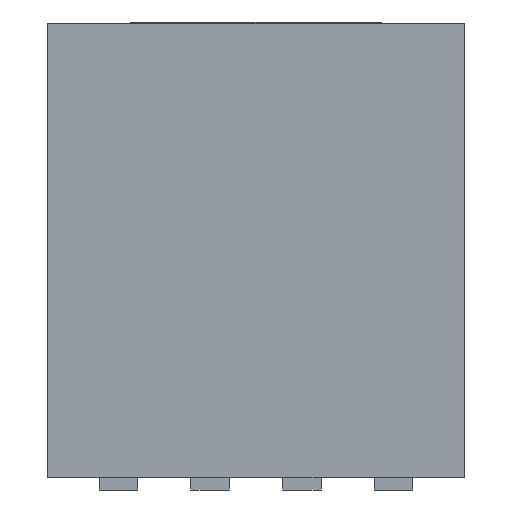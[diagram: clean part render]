
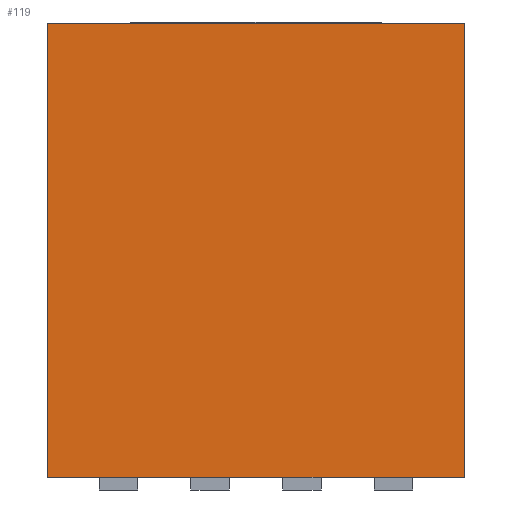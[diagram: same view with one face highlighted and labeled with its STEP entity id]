
A CAD part, left-side view. The second image highlights one B-rep face of the part: STEP entity #119.
In plain terms, the highlighted planar face has unit normal (-1, 0, 0).
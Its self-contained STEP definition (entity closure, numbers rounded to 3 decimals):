
#21 = EDGE_CURVE('',#22,#24,#26,.T.);
#22 = VERTEX_POINT('',#23);
#23 = CARTESIAN_POINT('',(-6.6,-4.55,0.3));
#24 = VERTEX_POINT('',#25);
#25 = CARTESIAN_POINT('',(-6.6,-4.55,10.2));
#26 = LINE('',#27,#28);
#27 = CARTESIAN_POINT('',(-6.6,-4.55,0.3));
#28 = VECTOR('',#29,1.);
#29 = DIRECTION('',(0.,0.,1.));
#94 = VERTEX_POINT('',#95);
#95 = CARTESIAN_POINT('',(-6.6,4.55,10.2));
#101 = EDGE_CURVE('',#102,#94,#104,.T.);
#102 = VERTEX_POINT('',#103);
#103 = CARTESIAN_POINT('',(-6.6,4.55,0.3));
#104 = LINE('',#105,#106);
#105 = CARTESIAN_POINT('',(-6.6,4.55,0.3));
#106 = VECTOR('',#107,1.);
#107 = DIRECTION('',(0.,0.,1.));
#119 = ADVANCED_FACE('',(#120),#136,.F.);
#120 = FACE_BOUND('',#121,.F.);
#121 = EDGE_LOOP('',(#122,#123,#129,#130));
#122 = ORIENTED_EDGE('',*,*,#101,.T.);
#123 = ORIENTED_EDGE('',*,*,#124,.T.);
#124 = EDGE_CURVE('',#94,#24,#125,.T.);
#125 = LINE('',#126,#127);
#126 = CARTESIAN_POINT('',(-6.6,4.55,10.2));
#127 = VECTOR('',#128,1.);
#128 = DIRECTION('',(0.,-1.,0.));
#129 = ORIENTED_EDGE('',*,*,#21,.F.);
#130 = ORIENTED_EDGE('',*,*,#131,.F.);
#131 = EDGE_CURVE('',#102,#22,#132,.T.);
#132 = LINE('',#133,#134);
#133 = CARTESIAN_POINT('',(-6.6,4.55,0.3));
#134 = VECTOR('',#135,1.);
#135 = DIRECTION('',(0.,-1.,0.));
#136 = PLANE('',#137);
#137 = AXIS2_PLACEMENT_3D('',#138,#139,#140);
#138 = CARTESIAN_POINT('',(-6.6,4.55,0.3));
#139 = DIRECTION('',(1.,0.,-0.));
#140 = DIRECTION('',(0.,-1.,0.));
